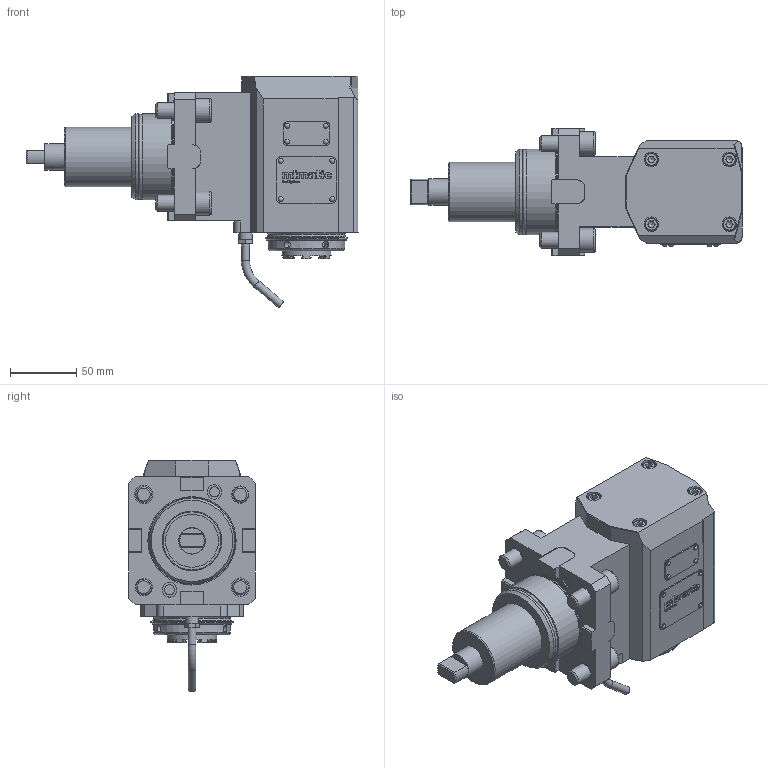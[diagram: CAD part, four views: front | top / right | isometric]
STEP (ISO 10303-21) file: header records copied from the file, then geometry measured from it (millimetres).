
FILE_DESCRIPTION(/* description */ (''),/* implementation_level */ '2;1');
FILE_NAME(/* name */ '192966',/* time_stamp */ '2020-05-26T07:00:49+02:00',/* author */ (''),/* organization */ (''),/* preprocessor_version */ 'ST-DEVELOPER v16.5',/* originating_system */ 'HiCAD 2017 2201.0 Build 268',/* authorisation */ '');
FILE_SCHEMA (('AUTOMOTIVE_DESIGN { 1 0 10303 214 1 1 1 1 }'));
Products named in the file (10): Root; A192966_AGW-BMT-C-65-ER32-I; GEWINDE; DIN 13-M14
Assembly tree (9 placements, depth 3):
  Root
    A192966_AGW-BMT-C-65-ER32-I
      GEWINDE
      GEWINDE
      GEWINDE
      GEWINDE
      GEWINDE
      GEWINDE
      DIN 13-M14
      DIN 13-M14
Bounding box: 251 x 96 x 175.17 mm (x, y, z)
Volume: 1323133.9 mm3; surface area: 134148.2 mm2
Topology: 10 solids, 18 shells, 893 faces, 2254 edges, 1468 vertices
Faces by surface type: plane 558, cylinder 218, cone 42, bspline 38, torus 29, sphere 8
Full cylindrical faces by diameter (mm): 2 x8, 2.2 x8, 4 x2, 5.1 x6, 6 x2, 6.8 x2, 7.65 x2, 8 x1, 9.853 x8, 10 x5, 11 x4, 11.01 x2, 11.1 x2, 12 x10, 13 x2, 14 x4, 18 x4, 20 x1, 23.5 x1, 24 x1, 27 x2, 29.4 x1, 37.5 x1, 38 x1, 38.16 x2, 38.4 x1, 40 x2, 40.501 x1, 45 x1, 55 x1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
Entity records: 56284 total; most frequent: CARTESIAN_POINT 12111, PRESENTATION_STYLE_ASSIGNMENT 4585, OVER_RIDING_STYLED_ITEM 4576, DIRECTION 4074, COLOUR_RGB 4063, DRAUGHTING_PRE_DEFINED_CURVE_FONT 4052, CURVE_STYLE 4052, ORIENTED_EDGE 4052
